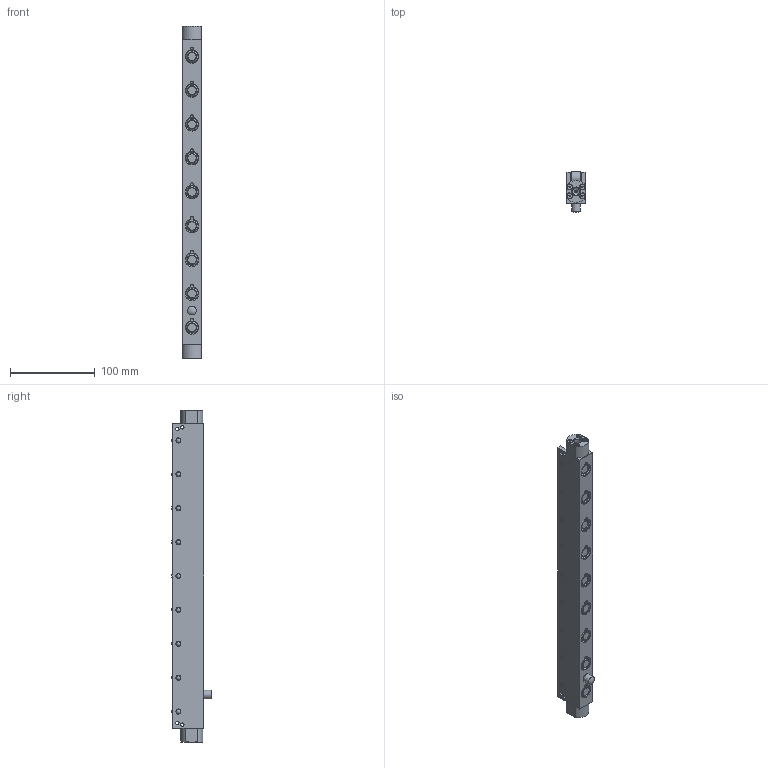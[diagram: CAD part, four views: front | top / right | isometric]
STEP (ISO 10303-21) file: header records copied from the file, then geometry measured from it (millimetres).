
FILE_DESCRIPTION(/* description */ (''),/* implementation_level */ '2;1');
FILE_NAME(/* name */ 'S:\EASCN Vault\Designs\Standard Part\DIE LIFTERS\EHR\EHR- 3D step\EHR22-C - 3D step complete serie\EHR22-9-C.stp',/* time_stamp */ '2019-09-06T13:27:09+08:00',/* author */ ('yue.yang'),/* organization */ (''),/* preprocessor_version */ 'ST-DEVELOPER v17',/* originating_system */ 'Autodesk Inventor 2019',/* authorisation */ '');
FILE_SCHEMA (('AUTOMOTIVE_DESIGN { 1 0 10303 214 3 1 1 }'));
Length unit declared in the file: millimetre
Products named in the file (1): EHR22-9-C_Shrinkwrap_1
Bounding box: 21.8 x 48.05 x 392 mm (x, y, z)
Volume: 235005.2 mm3; surface area: 92553.2 mm2
Topology: 5 solids, 5 shells, 657 faces, 1886 edges, 1297 vertices
Faces by surface type: cylinder 216, plane 202, cone 120, torus 98, sphere 19, bspline 2
Full cylindrical faces by diameter (mm): 3 x10, 3.2 x8, 4 x8, 5 x36, 6 x18, 8.566 x2, 10 x3, 11 x9, 12.5 x18, 13.4 x9, 13.8 x9, 15.95 x18, 16 x26
Entity records: 24167 total; most frequent: CARTESIAN_POINT 5477, DIRECTION 4091, ORIENTED_EDGE 3738, EDGE_CURVE 1869, AXIS2_PLACEMENT_3D 1788, VERTEX_POINT 1297, CIRCLE 1130, EDGE_LOOP 798
